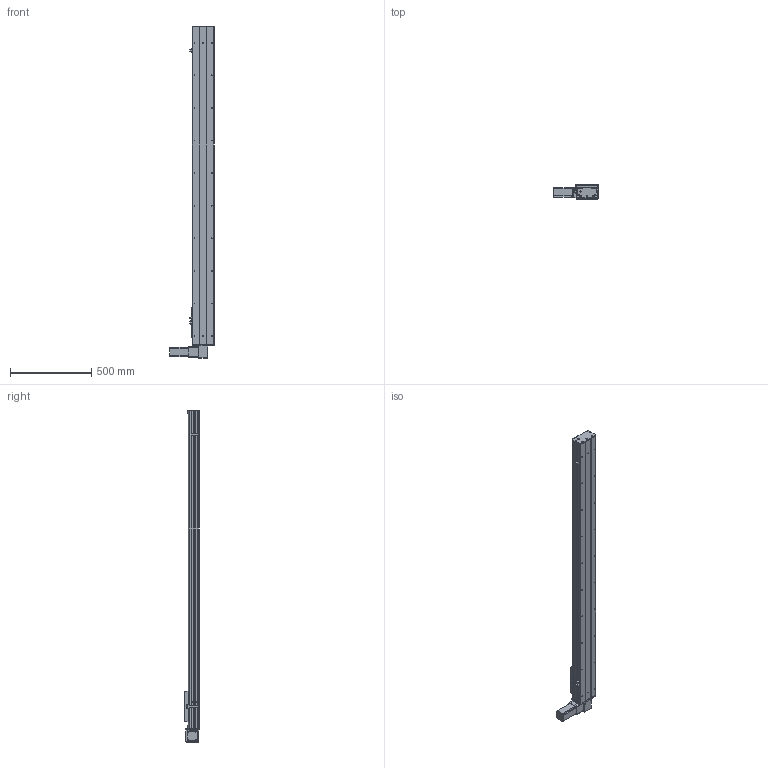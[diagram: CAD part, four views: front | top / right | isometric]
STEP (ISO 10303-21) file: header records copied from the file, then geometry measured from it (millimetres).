
FILE_DESCRIPTION (( 'STEP AP203' ), '1' );
FILE_NAME ('Y135CB-D90-S1650-BD-P400W.STEP', '2020-02-19T03:47:23', ( '微软用户' ), ( '微软中国' ), 'SwSTEP 2.0', 'SolidWorks 2017', '' );
FILE_SCHEMA (( 'CONFIG_CONTROL_DESIGN' ));
Length unit declared in the file: millimetre
Products named in the file (16): 135CB--詩湍-CE; Y135CB-耜裔; Y100-135俋离換覜ん--; 135CB---遴掛极.-; Y135C-陔俋离換覜結え-; 35CB---喘謫眊楊擘啣; 5C--俋欶; 0B-埴倛裔啣; C-雄赽釱--; 0B-源倛裔啣; Y10B--々湍喘謫眊--666; san松下电机400不带刹车----; 0B-薊粣ん眊; 5CB --掛极耜裔啣-; Y135CB-D90-S1650-BD-P400W; C-詩湍揤踡え-陔
Assembly tree (19 placements, depth 2):
  Y135CB-D90-S1650-BD-P400W
    Y135CB-耜裔
    135CB---遴掛极.-
    35CB---喘謫眊楊擘啣
    0B-埴倛裔啣
    0B-源倛裔啣
    san松下电机400不带刹车----
    5CB --掛极耜裔啣-  x2
    C-詩湍揤踡え-陔  x2
    135CB--詩湍-CE
    Y100-135俋离換覜ん--  x3
    Y135C-陔俋离換覜結え-
    5C--俋欶
    C-雄赽釱--
    Y10B--々湍喘謫眊--666
    0B-薊粣ん眊
Bounding box: 272 x 91 x 2038 mm (x, y, z)
Volume: 6074841.6 mm3; surface area: 2350111 mm2
Topology: 19 solids, 19 shells, 867 faces, 2320 edges, 1536 vertices
Faces by surface type: cylinder 436, plane 415, cone 16
Entity records: 26612 total; most frequent: DIRECTION 4436, CARTESIAN_POINT 4379, ORIENTED_EDGE 4116, EDGE_CURVE 2058, AXIS2_PLACEMENT_3D 1629, VERTEX_POINT 1364, LINE 1178, VECTOR 1178
